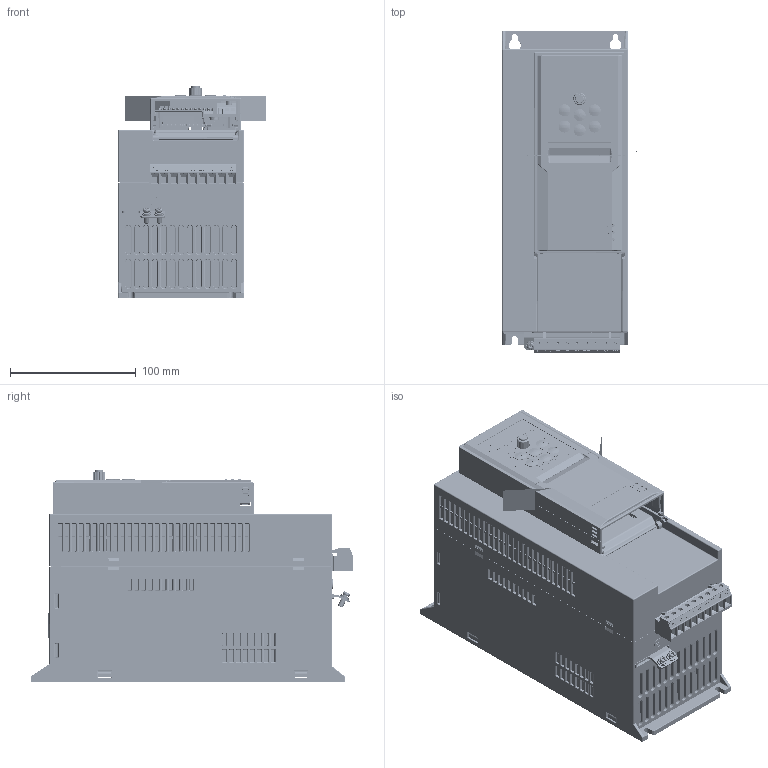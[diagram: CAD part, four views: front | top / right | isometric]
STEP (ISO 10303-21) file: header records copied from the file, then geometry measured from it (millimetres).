
FILE_DESCRIPTION((''),'2;1');
FILE_NAME('D3-DRIVE_REV00_ASM','2022-03-02T14:24:13',('wendong.luo'),(''),'CREO PARAMETRIC BY PTC INC, 2018100','CREO PARAMETRIC BY PTC INC, 2018100','');
FILE_SCHEMA(('CONFIG_CONTROL_DESIGN','GEOMETRIC_VALIDATION_PROPERTIES_MIM'));
Products named in the file (21): D3-MECHANICAL-PART; E0400006; E0400007; E0400017; M0202003; D3-PU_ASM; M0104035; E0100130; E0300012; E0400000; E0400001; E0200156; E0400074; E0400073; E0400011; E0100130_ASM; M0203043; M0104036; M0104034; CU0B_ASM; D3-DRIVE_REV00_ASM
Assembly tree (26 placements, depth 4):
  D3-DRIVE_REV00_ASM
    D3-PU_ASM
      D3-MECHANICAL-PART
      E0400006
      E0400007
      E0400017
      M0202003  x2
    CU0B_ASM
      M0104035
      E0100130_ASM
        E0100130
        E0300012
        E0400000  x6
        E0400001
        E0200156
        E0400074
        E0400073
        E0400011
      M0203043
      M0104036
      M0104034
Bounding box: 117.25 x 256.69 x 169 mm (x, y, z)
Volume: 2399111.6 mm3; surface area: 480259.7 mm2
Topology: 35 solids, 53 shells, 14459 faces, 38177 edges, 24323 vertices
Faces by surface type: plane 7894, cylinder 3449, bspline 1816, cone 626, torus 488, sphere 186
Entity records: 656953 total; most frequent: CARTESIAN_POINT 182518, ORIENTED_EDGE 74958, DIRECTION 63685, PRESENTATION_STYLE_ASSIGNMENT 38880, EDGE_CURVE 37495, STYLED_ITEM 36418, CURVE_STYLE 35643, VERTEX_POINT 23945
